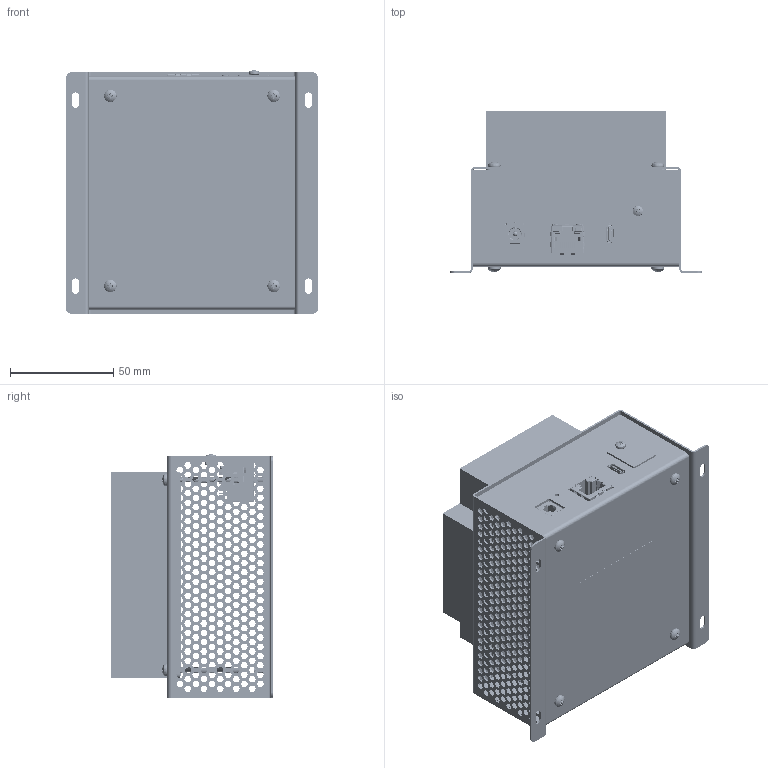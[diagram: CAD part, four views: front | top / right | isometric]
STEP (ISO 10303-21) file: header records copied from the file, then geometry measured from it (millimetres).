
FILE_DESCRIPTION (( 'STEP AP214' ), '1' );
FILE_NAME ('CORE02-XX_Website.STEP', '2025-11-27T18:03:47', ( '' ), ( '' ), 'SwSTEP 2.0', 'SolidWorks 2023', '' );
FILE_SCHEMA (( 'AUTOMOTIVE_DESIGN' ));
Length unit declared in the file: millimetre
Products named in the file (1): CORE02-XX_Website
Bounding box: 121.82 x 78.19 x 117.81 mm (x, y, z)
Volume: 300444.8 mm3; surface area: 136626.9 mm2
Topology: 42 solids, 79 shells, 12541 faces, 35707 edges, 23423 vertices
Faces by surface type: plane 7230, cylinder 4659, bspline 397, cone 160, torus 63, sphere 32
Full cylindrical faces by diameter (mm): 2 x1, 2.9 x1, 3 x2, 3.09 x4, 3.3 x4, 3.4 x12, 4.22 x1, 5.9 x4
Entity records: 467825 total; most frequent: CARTESIAN_POINT 138757, ORIENTED_EDGE 71204, DIRECTION 65449, EDGE_CURVE 35602, VECTOR 24285, LINE 24285, VERTEX_POINT 23396, AXIS2_PLACEMENT_3D 20582
